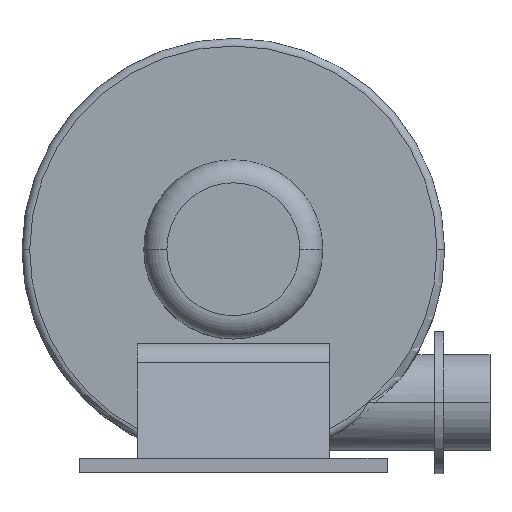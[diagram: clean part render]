
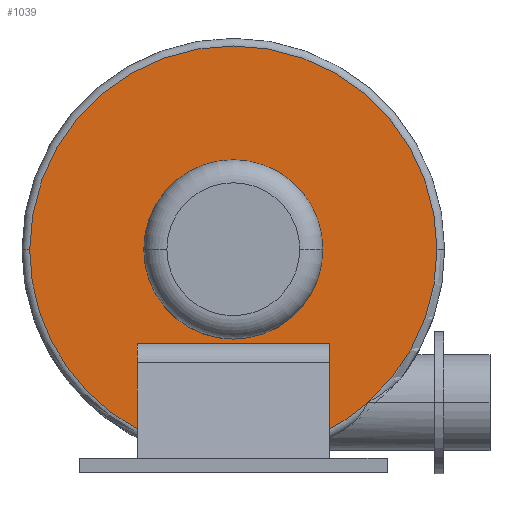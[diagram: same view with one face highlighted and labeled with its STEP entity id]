
A CAD part, top view. The second image highlights one B-rep face of the part: STEP entity #1039.
In plain terms, the highlighted planar face has unit normal (0, 0, 1).
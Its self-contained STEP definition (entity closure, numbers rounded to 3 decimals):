
#8 = CARTESIAN_POINT ( 'NONE',  ( 0., 0., 62.5 ) ) ;
#23 = AXIS2_PLACEMENT_3D ( 'NONE', #265, #1575, #453 ) ;
#43 = CIRCLE ( 'NONE', #1853, 265. ) ;
#77 = AXIS2_PLACEMENT_3D ( 'NONE', #2353, #1328, #177 ) ;
#111 = CARTESIAN_POINT ( 'NONE',  ( -125., -122., 62.5 ) ) ;
#134 = EDGE_CURVE ( 'NONE', #2069, #1994, #43, .T. ) ;
#177 = DIRECTION ( 'NONE',  ( 1., 0., 0. ) ) ;
#197 = DIRECTION ( 'NONE',  ( 0., 0., 1. ) ) ;
#228 = EDGE_CURVE ( 'NONE', #2069, #2094, #2077, .T. ) ;
#233 = EDGE_CURVE ( 'NONE', #1776, #1992, #577, .T. ) ;
#239 = EDGE_CURVE ( 'NONE', #1992, #2094, #1236, .T. ) ;
#241 = EDGE_CURVE ( 'NONE', #981, #1998, #1910, .T. ) ;
#265 = CARTESIAN_POINT ( 'NONE',  ( 0., 0., 62.5 ) ) ;
#300 = CARTESIAN_POINT ( 'NONE',  ( 116.5, 0., 62.5 ) ) ;
#320 = DIRECTION ( 'NONE',  ( 0., 0., 1. ) ) ;
#410 = CIRCLE ( 'NONE', #2070, 265. ) ;
#431 = EDGE_CURVE ( 'NONE', #2133, #2124, #783, .T. ) ;
#453 = DIRECTION ( 'NONE',  ( 1., 0., 0. ) ) ;
#494 = CARTESIAN_POINT ( 'NONE',  ( 0., 0., 62.5 ) ) ;
#499 = CARTESIAN_POINT ( 'NONE',  ( 0., -122., 62.5 ) ) ;
#577 = LINE ( 'NONE', #1081, #1563 ) ;
#630 = CARTESIAN_POINT ( 'NONE',  ( -125., -233.666, 62.5 ) ) ;
#659 = EDGE_CURVE ( 'NONE', #1994, #2133, #1190, .T. ) ;
#751 = CARTESIAN_POINT ( 'NONE',  ( 0., 0., 62.5 ) ) ;
#783 = CIRCLE ( 'NONE', #23, 265. ) ;
#812 = CARTESIAN_POINT ( 'NONE',  ( 0., 0., 62.5 ) ) ;
#896 = CARTESIAN_POINT ( 'NONE',  ( 0., 0., 62.5 ) ) ;
#940 = EDGE_CURVE ( 'NONE', #2124, #1776, #410, .T. ) ;
#941 = DIRECTION ( 'NONE',  ( 1., 0., 0. ) ) ;
#981 = VERTEX_POINT ( 'NONE', #1750 ) ;
#998 = DIRECTION ( 'NONE',  ( 1., 0., 0. ) ) ;
#1039 = ADVANCED_FACE ( 'NONE', ( #1124, #1600 ), #1965, .T. ) ;
#1081 = CARTESIAN_POINT ( 'NONE',  ( -125., 0., 62.5 ) ) ;
#1091 = DIRECTION ( 'NONE',  ( 1., 0., 0. ) ) ;
#1109 = ORIENTED_EDGE ( 'NONE', *, *, #228, .F. ) ;
#1116 = ORIENTED_EDGE ( 'NONE', *, *, #134, .T. ) ;
#1124 = FACE_OUTER_BOUND ( 'NONE', #2193, .T. ) ;
#1128 = CARTESIAN_POINT ( 'NONE',  ( -265., 0., 62.5 ) ) ;
#1136 = ORIENTED_EDGE ( 'NONE', *, *, #659, .T. ) ;
#1138 = ORIENTED_EDGE ( 'NONE', *, *, #431, .T. ) ;
#1139 = ORIENTED_EDGE ( 'NONE', *, *, #940, .T. ) ;
#1143 = ORIENTED_EDGE ( 'NONE', *, *, #233, .T. ) ;
#1145 = ORIENTED_EDGE ( 'NONE', *, *, #239, .T. ) ;
#1147 = ORIENTED_EDGE ( 'NONE', *, *, #241, .F. ) ;
#1152 = ORIENTED_EDGE ( 'NONE', *, *, #1215, .F. ) ;
#1185 = CIRCLE ( 'NONE', #1531, 116.5 ) ;
#1190 = CIRCLE ( 'NONE', #77, 265. ) ;
#1215 = EDGE_CURVE ( 'NONE', #1998, #981, #1185, .T. ) ;
#1217 = AXIS2_PLACEMENT_3D ( 'NONE', #896, #2155, #1091 ) ;
#1231 = CARTESIAN_POINT ( 'NONE',  ( 265., 0., 62.5 ) ) ;
#1236 = LINE ( 'NONE', #499, #1345 ) ;
#1298 = DIRECTION ( 'NONE',  ( 0., 1., 0. ) ) ;
#1328 = DIRECTION ( 'NONE',  ( 0., 0., 1. ) ) ;
#1345 = VECTOR ( 'NONE', #1639, 1000. ) ;
#1363 = CARTESIAN_POINT ( 'NONE',  ( 125., -122., 62.5 ) ) ;
#1438 = CARTESIAN_POINT ( 'NONE',  ( 174.997, -199., 62.5 ) ) ;
#1531 = AXIS2_PLACEMENT_3D ( 'NONE', #751, #2017, #941 ) ;
#1563 = VECTOR ( 'NONE', #1298, 1000. ) ;
#1575 = DIRECTION ( 'NONE',  ( 0., 0., 1. ) ) ;
#1600 = FACE_BOUND ( 'NONE', #2157, .T. ) ;
#1631 = DIRECTION ( 'NONE',  ( 0., 1., 0. ) ) ;
#1639 = DIRECTION ( 'NONE',  ( 1., 0., 0. ) ) ;
#1644 = DIRECTION ( 'NONE',  ( 1., 0., 0. ) ) ;
#1750 = CARTESIAN_POINT ( 'NONE',  ( -116.5, 0., 62.5 ) ) ;
#1776 = VERTEX_POINT ( 'NONE', #630 ) ;
#1800 = CARTESIAN_POINT ( 'NONE',  ( 125., 0., 62.5 ) ) ;
#1853 = AXIS2_PLACEMENT_3D ( 'NONE', #8, #197, #1644 ) ;
#1910 = CIRCLE ( 'NONE', #1217, 116.5 ) ;
#1965 = PLANE ( 'NONE',  #1976 ) ;
#1976 = AXIS2_PLACEMENT_3D ( 'NONE', #494, #320, #2143 ) ;
#1992 = VERTEX_POINT ( 'NONE', #111 ) ;
#1994 = VERTEX_POINT ( 'NONE', #1438 ) ;
#1998 = VERTEX_POINT ( 'NONE', #300 ) ;
#2017 = DIRECTION ( 'NONE',  ( 0., 0., 1. ) ) ;
#2069 = VERTEX_POINT ( 'NONE', #2186 ) ;
#2070 = AXIS2_PLACEMENT_3D ( 'NONE', #812, #2084, #998 ) ;
#2077 = LINE ( 'NONE', #1800, #2163 ) ;
#2084 = DIRECTION ( 'NONE',  ( 0., 0., 1. ) ) ;
#2094 = VERTEX_POINT ( 'NONE', #1363 ) ;
#2124 = VERTEX_POINT ( 'NONE', #1128 ) ;
#2133 = VERTEX_POINT ( 'NONE', #1231 ) ;
#2143 = DIRECTION ( 'NONE',  ( 1., 0., 0. ) ) ;
#2155 = DIRECTION ( 'NONE',  ( 0., 0., 1. ) ) ;
#2157 = EDGE_LOOP ( 'NONE', ( #1147, #1152 ) ) ;
#2163 = VECTOR ( 'NONE', #1631, 1000. ) ;
#2186 = CARTESIAN_POINT ( 'NONE',  ( 125., -233.666, 62.5 ) ) ;
#2193 = EDGE_LOOP ( 'NONE', ( #1109, #1116, #1136, #1138, #1139, #1143, #1145 ) ) ;
#2353 = CARTESIAN_POINT ( 'NONE',  ( 0., 0., 62.5 ) ) ;
